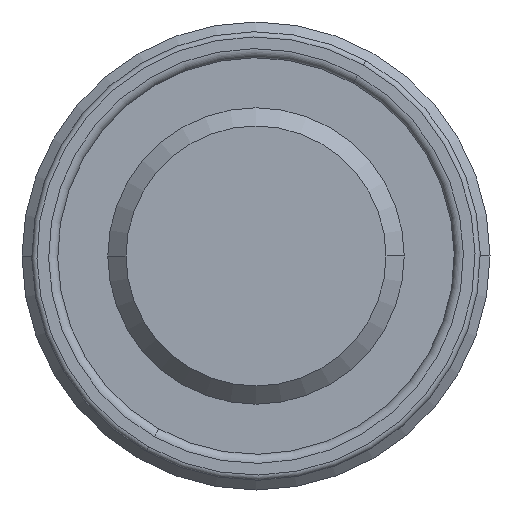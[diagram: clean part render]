
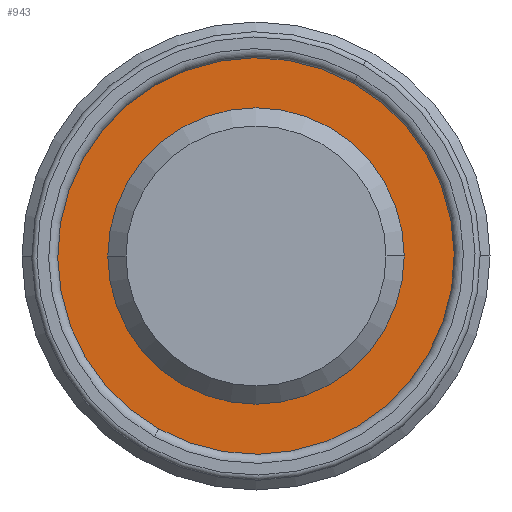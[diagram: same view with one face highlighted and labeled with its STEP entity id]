
A CAD part, front view. The second image highlights one B-rep face of the part: STEP entity #943.
In plain terms, the highlighted planar face has unit normal (0, -1, 0).
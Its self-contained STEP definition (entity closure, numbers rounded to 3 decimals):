
#746=PLANE('',#2998);
#779=FACE_BOUND('',#1251,.T.);
#780=FACE_BOUND('',#1252,.T.);
#943=ADVANCED_FACE('',(#779,#780),#746,.F.);
#1251=EDGE_LOOP('',(#1889,#1890));
#1252=EDGE_LOOP('',(#1891,#1892));
#1889=ORIENTED_EDGE('',*,*,#2528,.T.);
#1890=ORIENTED_EDGE('',*,*,#2529,.T.);
#1891=ORIENTED_EDGE('',*,*,#2530,.T.);
#1892=ORIENTED_EDGE('',*,*,#2434,.T.);
#2190=VERTEX_POINT('',#4273);
#2191=VERTEX_POINT('',#4274);
#2266=VERTEX_POINT('',#4656);
#2267=VERTEX_POINT('',#4657);
#2434=EDGE_CURVE('',#2190,#2191,#2686,.T.);
#2528=EDGE_CURVE('',#2266,#2267,#2730,.T.);
#2529=EDGE_CURVE('',#2267,#2266,#2731,.T.);
#2530=EDGE_CURVE('',#2191,#2190,#2732,.T.);
#2686=CIRCLE('',#2927,16.9);
#2730=CIRCLE('',#2995,11.4);
#2731=CIRCLE('',#2996,11.4);
#2732=CIRCLE('',#2997,16.9);
#2927=AXIS2_PLACEMENT_3D('',#4272,#3442,#3443);
#2995=AXIS2_PLACEMENT_3D('',#4655,#3610,#3611);
#2996=AXIS2_PLACEMENT_3D('',#4658,#3612,#3613);
#2997=AXIS2_PLACEMENT_3D('',#4659,#3614,#3615);
#2998=AXIS2_PLACEMENT_3D('',#4660,#3616,#3617);
#3442=DIRECTION('',(0.,-1.,0.));
#3443=DIRECTION('',(-1.,0.,0.));
#3610=DIRECTION('',(0.,1.,0.));
#3611=DIRECTION('',(-1.,0.,0.));
#3612=DIRECTION('',(0.,1.,0.));
#3613=DIRECTION('',(-1.,0.,0.));
#3614=DIRECTION('',(0.,-1.,0.));
#3615=DIRECTION('',(-1.,0.,0.));
#3616=DIRECTION('',(0.,1.,0.));
#3617=DIRECTION('',(1.,0.,0.));
#4272=CARTESIAN_POINT('',(0.,21.6,0.));
#4273=CARTESIAN_POINT('',(16.9,21.6,0.));
#4274=CARTESIAN_POINT('',(-16.9,21.6,0.));
#4655=CARTESIAN_POINT('',(0.,21.6,0.));
#4656=CARTESIAN_POINT('',(11.4,21.6,0.));
#4657=CARTESIAN_POINT('',(-11.4,21.6,0.));
#4658=CARTESIAN_POINT('',(0.,21.6,0.));
#4659=CARTESIAN_POINT('',(0.,21.6,0.));
#4660=CARTESIAN_POINT('',(17.1,21.6,0.));
